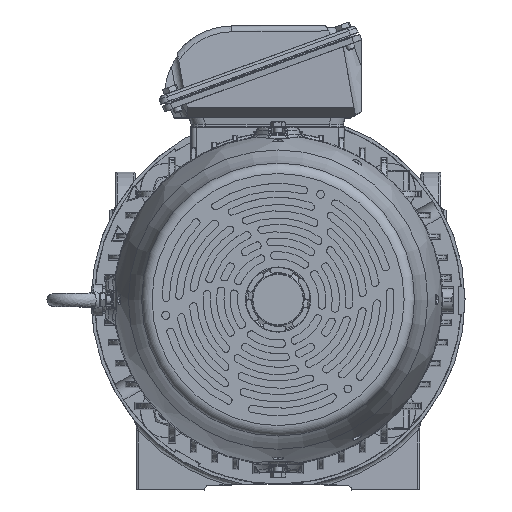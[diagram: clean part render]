
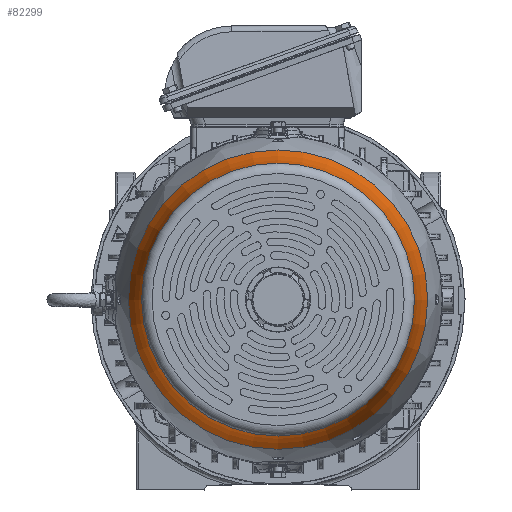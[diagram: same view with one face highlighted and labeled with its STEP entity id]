
A CAD part, top view. The second image highlights one B-rep face of the part: STEP entity #82299.
In plain terms, the highlighted toroidal (fillet/blend) face has major radius 308.616 mm and minor radius 180 mm.
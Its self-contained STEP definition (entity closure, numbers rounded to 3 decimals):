
#1150=TOROIDAL_SURFACE('',#89021,308.617,180.);
#9822=FACE_OUTER_BOUND('',#14650,.T.);
#14650=EDGE_LOOP('',(#63064,#63065,#63066,#63067,#63068,#63069));
#19374=CIRCLE('',#89018,129.927);
#19375=CIRCLE('',#89019,129.927);
#19377=CIRCLE('',#89022,142.487);
#19378=CIRCLE('',#89023,142.487);
#19379=CIRCLE('',#89024,180.);
#35292=VERTEX_POINT('',#150061);
#35293=VERTEX_POINT('',#150062);
#35294=VERTEX_POINT('',#150067);
#35295=VERTEX_POINT('',#150068);
#45214=EDGE_CURVE('',#35292,#35293,#19374,.T.);
#45215=EDGE_CURVE('',#35293,#35292,#19375,.T.);
#45217=EDGE_CURVE('',#35294,#35295,#19377,.T.);
#45218=EDGE_CURVE('',#35295,#35294,#19378,.T.);
#45219=EDGE_CURVE('',#35295,#35293,#19379,.T.);
#63064=ORIENTED_EDGE('',*,*,#45217,.F.);
#63065=ORIENTED_EDGE('',*,*,#45218,.F.);
#63066=ORIENTED_EDGE('',*,*,#45219,.T.);
#63067=ORIENTED_EDGE('',*,*,#45215,.T.);
#63068=ORIENTED_EDGE('',*,*,#45214,.T.);
#63069=ORIENTED_EDGE('',*,*,#45219,.F.);
#82299=ADVANCED_FACE('',(#9822),#1150,.F.);
#89018=AXIS2_PLACEMENT_3D('',#150063,#104070,#104071);
#89019=AXIS2_PLACEMENT_3D('',#150064,#104072,#104073);
#89021=AXIS2_PLACEMENT_3D('',#150066,#104076,#104077);
#89022=AXIS2_PLACEMENT_3D('',#150069,#104078,#104079);
#89023=AXIS2_PLACEMENT_3D('',#150070,#104080,#104081);
#89024=AXIS2_PLACEMENT_3D('',#150071,#104082,#104083);
#104070=DIRECTION('center_axis',(0.,0.,
-1.));
#104071=DIRECTION('ref_axis',(-1.,0.,0.));
#104072=DIRECTION('center_axis',(0.,0.,
-1.));
#104073=DIRECTION('ref_axis',(-1.,0.,0.));
#104076=DIRECTION('center_axis',(0.,0.,
-1.));
#104077=DIRECTION('ref_axis',(-1.,0.,0.));
#104078=DIRECTION('center_axis',(0.,0.,
-1.));
#104079=DIRECTION('ref_axis',(-1.,0.,0.));
#104080=DIRECTION('center_axis',(0.,0.,
-1.));
#104081=DIRECTION('ref_axis',(-1.,0.,0.));
#104082=DIRECTION('center_axis',(0.,1.,0.));
#104083=DIRECTION('ref_axis',(1.,0.,0.));
#150061=CARTESIAN_POINT('',(-129.927,0.,645.405));
#150062=CARTESIAN_POINT('',(129.927,0.,645.405));
#150063=CARTESIAN_POINT('Origin',(0.,0.,
645.405));
#150064=CARTESIAN_POINT('Origin',(0.,0.,
645.405));
#150066=CARTESIAN_POINT('Origin',(0.,0.,
667.087));
#150067=CARTESIAN_POINT('',(-142.487,0.,597.799));
#150068=CARTESIAN_POINT('',(142.487,0.,597.799));
#150069=CARTESIAN_POINT('Origin',(0.,0.,
597.799));
#150070=CARTESIAN_POINT('Origin',(0.,0.,
597.799));
#150071=CARTESIAN_POINT('Origin',(308.617,0.,
667.087));
